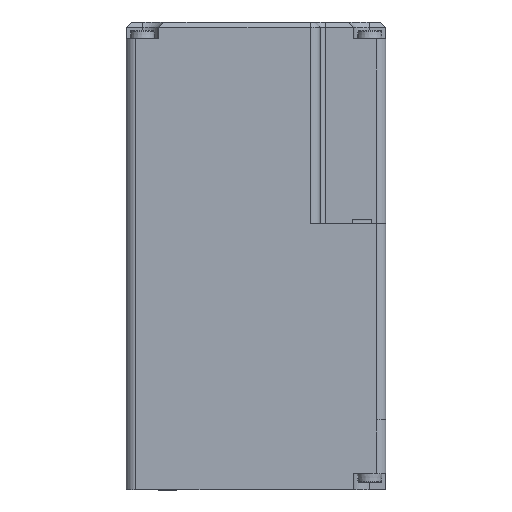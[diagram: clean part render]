
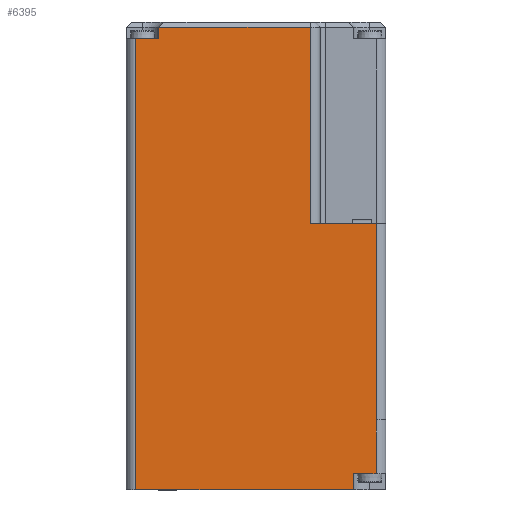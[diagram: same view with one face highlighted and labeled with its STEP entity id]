
A CAD part, front view. The second image highlights one B-rep face of the part: STEP entity #6395.
In plain terms, the highlighted planar face has unit normal (0, -1, 0).
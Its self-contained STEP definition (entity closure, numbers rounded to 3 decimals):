
#2 = LINE ( 'NONE', #6732, #4196 ) ;
#86 = VERTEX_POINT ( 'NONE', #5439 ) ;
#93 = DIRECTION ( 'NONE',  ( 1., 0., 0. ) ) ;
#127 = VERTEX_POINT ( 'NONE', #3932 ) ;
#146 = CARTESIAN_POINT ( 'NONE',  ( 26.809, -1.524, 6.9 ) ) ;
#259 = LINE ( 'NONE', #1495, #6447 ) ;
#389 = VERTEX_POINT ( 'NONE', #5242 ) ;
#409 = EDGE_LOOP ( 'NONE', ( #6305, #2050, #4073, #6257, #3513, #1673, #6774, #6672, #859, #6941, #2969, #3582 ) ) ;
#434 = LINE ( 'NONE', #3384, #3755 ) ;
#476 = CARTESIAN_POINT ( 'NONE',  ( 26.809, -1.524, 0. ) ) ;
#614 = VERTEX_POINT ( 'NONE', #1067 ) ;
#697 = CARTESIAN_POINT ( 'NONE',  ( 33.434, -1.524, -59.8 ) ) ;
#735 = LINE ( 'NONE', #146, #4731 ) ;
#827 = VERTEX_POINT ( 'NONE', #5656 ) ;
#859 = ORIENTED_EDGE ( 'NONE', *, *, #6532, .T. ) ;
#955 = CARTESIAN_POINT ( 'NONE',  ( 36.976, -1.524, -51.7 ) ) ;
#1067 = CARTESIAN_POINT ( 'NONE',  ( 33.434, -1.524, -62.5 ) ) ;
#1080 = EDGE_CURVE ( 'NONE', #5357, #614, #2, .T. ) ;
#1092 = CARTESIAN_POINT ( 'NONE',  ( 3.518, -1.524, 8.7 ) ) ;
#1182 = EDGE_CURVE ( 'NONE', #389, #2470, #4453, .T. ) ;
#1273 = DIRECTION ( 'NONE',  ( -1., 0., 0. ) ) ;
#1376 = EDGE_CURVE ( 'NONE', #4157, #3147, #259, .T. ) ;
#1451 = VECTOR ( 'NONE', #1518, 1000. ) ;
#1495 = CARTESIAN_POINT ( 'NONE',  ( 3.518, -1.524, 0. ) ) ;
#1518 = DIRECTION ( 'NONE',  ( -1., 0., 0. ) ) ;
#1625 = VERTEX_POINT ( 'NONE', #3368 ) ;
#1668 = LINE ( 'NONE', #2966, #4468 ) ;
#1673 = ORIENTED_EDGE ( 'NONE', *, *, #2273, .T. ) ;
#1720 = CARTESIAN_POINT ( 'NONE',  ( 0., -1.524, -51.7 ) ) ;
#2044 = DIRECTION ( 'NONE',  ( 0., 0., -1. ) ) ;
#2050 = ORIENTED_EDGE ( 'NONE', *, *, #1080, .T. ) ;
#2107 = VERTEX_POINT ( 'NONE', #955 ) ;
#2273 = EDGE_CURVE ( 'NONE', #2470, #2107, #2488, .T. ) ;
#2294 = CARTESIAN_POINT ( 'NONE',  ( 36.952, -1.524, -51.7 ) ) ;
#2458 = EDGE_CURVE ( 'NONE', #1625, #389, #434, .T. ) ;
#2466 = DIRECTION ( 'NONE',  ( 0., 0., -1. ) ) ;
#2470 = VERTEX_POINT ( 'NONE', #2294 ) ;
#2488 = LINE ( 'NONE', #1720, #4276 ) ;
#2530 = CARTESIAN_POINT ( 'NONE',  ( 0., -1.524, 0. ) ) ;
#2534 = DIRECTION ( 'NONE',  ( 0., 0., 1. ) ) ;
#2719 = LINE ( 'NONE', #4698, #1451 ) ;
#2729 = CARTESIAN_POINT ( 'NONE',  ( 0., -1.524, 6.9 ) ) ;
#2928 = EDGE_CURVE ( 'NONE', #5357, #4152, #4277, .T. ) ;
#2966 = CARTESIAN_POINT ( 'NONE',  ( 36.976, -1.524, -21.5 ) ) ;
#2969 = ORIENTED_EDGE ( 'NONE', *, *, #1376, .T. ) ;
#3055 = VECTOR ( 'NONE', #6822, 1000. ) ;
#3082 = DIRECTION ( 'NONE',  ( -1., 0., 0. ) ) ;
#3147 = VERTEX_POINT ( 'NONE', #4472 ) ;
#3368 = CARTESIAN_POINT ( 'NONE',  ( 33.434, -1.524, -60. ) ) ;
#3384 = CARTESIAN_POINT ( 'NONE',  ( 9.582, -1.524, -60. ) ) ;
#3443 = DIRECTION ( 'NONE',  ( 1., 0., 0. ) ) ;
#3481 = LINE ( 'NONE', #697, #3055 ) ;
#3513 = ORIENTED_EDGE ( 'NONE', *, *, #1182, .T. ) ;
#3530 = LINE ( 'NONE', #4962, #4384 ) ;
#3582 = ORIENTED_EDGE ( 'NONE', *, *, #5399, .T. ) ;
#3755 = VECTOR ( 'NONE', #6725, 1000. ) ;
#3797 = PLANE ( 'NONE',  #6639 ) ;
#3881 = EDGE_CURVE ( 'NONE', #127, #4157, #2719, .T. ) ;
#3932 = CARTESIAN_POINT ( 'NONE',  ( 26.809, -1.524, 8.7 ) ) ;
#4073 = ORIENTED_EDGE ( 'NONE', *, *, #7108, .T. ) ;
#4152 = VERTEX_POINT ( 'NONE', #2729 ) ;
#4157 = VERTEX_POINT ( 'NONE', #1092 ) ;
#4196 = VECTOR ( 'NONE', #3443, 1000. ) ;
#4275 = EDGE_CURVE ( 'NONE', #827, #86, #5363, .T. ) ;
#4276 = VECTOR ( 'NONE', #93, 1000. ) ;
#4277 = LINE ( 'NONE', #2530, #4873 ) ;
#4384 = VECTOR ( 'NONE', #6548, 1000. ) ;
#4453 = LINE ( 'NONE', #5661, #4619 ) ;
#4468 = VECTOR ( 'NONE', #2466, 1000. ) ;
#4472 = CARTESIAN_POINT ( 'NONE',  ( 3.518, -1.524, 6.9 ) ) ;
#4619 = VECTOR ( 'NONE', #2534, 1000. ) ;
#4697 = DIRECTION ( 'NONE',  ( 0., 0., 1. ) ) ;
#4698 = CARTESIAN_POINT ( 'NONE',  ( 26.809, -1.524, 8.7 ) ) ;
#4731 = VECTOR ( 'NONE', #1273, 1000. ) ;
#4873 = VECTOR ( 'NONE', #4697, 1000. ) ;
#4962 = CARTESIAN_POINT ( 'NONE',  ( 26.809, -1.524, 0. ) ) ;
#4979 = FACE_OUTER_BOUND ( 'NONE', #409, .T. ) ;
#5213 = CARTESIAN_POINT ( 'NONE',  ( 0., -1.524, -62.5 ) ) ;
#5242 = CARTESIAN_POINT ( 'NONE',  ( 36.952, -1.524, -60. ) ) ;
#5357 = VERTEX_POINT ( 'NONE', #5213 ) ;
#5363 = LINE ( 'NONE', #5700, #6992 ) ;
#5399 = EDGE_CURVE ( 'NONE', #3147, #4152, #735, .T. ) ;
#5439 = CARTESIAN_POINT ( 'NONE',  ( 26.809, -1.524, -21.5 ) ) ;
#5656 = CARTESIAN_POINT ( 'NONE',  ( 36.976, -1.524, -21.5 ) ) ;
#5661 = CARTESIAN_POINT ( 'NONE',  ( 36.952, -1.524, -57.1 ) ) ;
#5700 = CARTESIAN_POINT ( 'NONE',  ( 0., -1.524, -21.5 ) ) ;
#5913 = DIRECTION ( 'NONE',  ( 0., 0., -1. ) ) ;
#6213 = EDGE_CURVE ( 'NONE', #827, #2107, #1668, .T. ) ;
#6257 = ORIENTED_EDGE ( 'NONE', *, *, #2458, .T. ) ;
#6305 = ORIENTED_EDGE ( 'NONE', *, *, #2928, .F. ) ;
#6395 = ADVANCED_FACE ( 'NONE', ( #4979 ), #3797, .T. ) ;
#6447 = VECTOR ( 'NONE', #2044, 1000. ) ;
#6532 = EDGE_CURVE ( 'NONE', #86, #127, #3530, .T. ) ;
#6548 = DIRECTION ( 'NONE',  ( 0., 0., 1. ) ) ;
#6639 = AXIS2_PLACEMENT_3D ( 'NONE', #476, #7003, #5913 ) ;
#6672 = ORIENTED_EDGE ( 'NONE', *, *, #4275, .T. ) ;
#6725 = DIRECTION ( 'NONE',  ( 1., 0., 0. ) ) ;
#6732 = CARTESIAN_POINT ( 'NONE',  ( 0., -1.524, -62.5 ) ) ;
#6774 = ORIENTED_EDGE ( 'NONE', *, *, #6213, .F. ) ;
#6822 = DIRECTION ( 'NONE',  ( 0., 0., 1. ) ) ;
#6941 = ORIENTED_EDGE ( 'NONE', *, *, #3881, .T. ) ;
#6992 = VECTOR ( 'NONE', #3082, 1000. ) ;
#7003 = DIRECTION ( 'NONE',  ( 0., -1., 0. ) ) ;
#7108 = EDGE_CURVE ( 'NONE', #614, #1625, #3481, .T. ) ;
